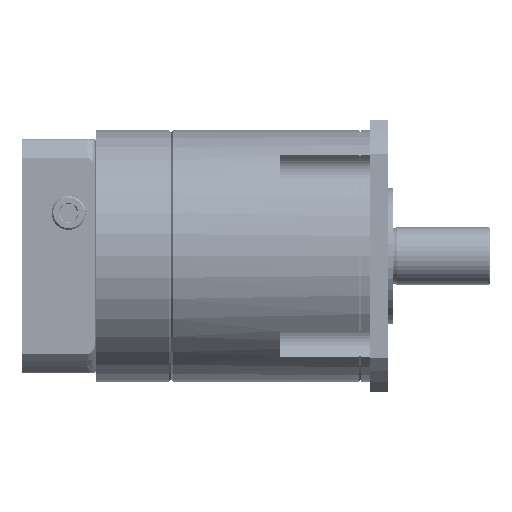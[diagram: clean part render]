
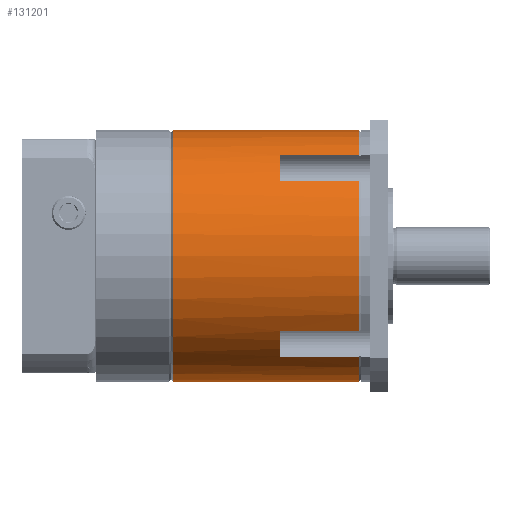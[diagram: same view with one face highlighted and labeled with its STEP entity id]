
A CAD part, front view. The second image highlights one B-rep face of the part: STEP entity #131201.
In plain terms, the highlighted cylindrical face has radius 35 mm (diameter 70 mm), a partial arc.
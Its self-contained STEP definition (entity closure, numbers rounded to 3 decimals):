
#610 = ORIENTED_EDGE ( 'NONE', *, *, #110913, .F. ) ;
#2060 = FACE_OUTER_BOUND ( 'NONE', #150020, .T. ) ;
#3754 = VERTEX_POINT ( 'NONE', #114983 ) ;
#8935 = VERTEX_POINT ( 'NONE', #132248 ) ;
#10751 = CARTESIAN_POINT ( 'NONE',  ( -59.556, -20.959, -28.03 ) ) ;
#10941 = DIRECTION ( 'NONE',  ( 1., 0., 0. ) ) ;
#12674 = AXIS2_PLACEMENT_3D ( 'NONE', #92599, #147727, #23756 ) ;
#13706 = CARTESIAN_POINT ( 'NONE',  ( -0.5, -28.03, 20.959 ) ) ;
#19290 = DIRECTION ( 'NONE',  ( 1., 0., 0. ) ) ;
#22243 = EDGE_CURVE ( 'NONE', #3754, #27598, #90837, .T. ) ;
#22730 = CARTESIAN_POINT ( 'NONE',  ( -0.5, 0., 35. ) ) ;
#23756 = DIRECTION ( 'NONE',  ( 0., 0., -1. ) ) ;
#25842 = DIRECTION ( 'NONE',  ( 1., 0., 0. ) ) ;
#25905 = ORIENTED_EDGE ( 'NONE', *, *, #148186, .T. ) ;
#26109 = DIRECTION ( 'NONE',  ( -1., 0., 0. ) ) ;
#27413 = DIRECTION ( 'NONE',  ( -1., 0., 0. ) ) ;
#27598 = VERTEX_POINT ( 'NONE', #35092 ) ;
#31139 = CARTESIAN_POINT ( 'NONE',  ( -59.556, 0., 0. ) ) ;
#33647 = CARTESIAN_POINT ( 'NONE',  ( -0.5, -20.959, -28.03 ) ) ;
#34166 = EDGE_CURVE ( 'NONE', #8935, #128043, #139757, .T. ) ;
#35092 = CARTESIAN_POINT ( 'NONE',  ( -22.5, -28.03, 20.959 ) ) ;
#35893 = AXIS2_PLACEMENT_3D ( 'NONE', #150054, #26109, #81353 ) ;
#37949 = VERTEX_POINT ( 'NONE', #33647 ) ;
#41877 = DIRECTION ( 'NONE',  ( 0., 0., 1. ) ) ;
#43688 = CARTESIAN_POINT ( 'NONE',  ( -52.5, 0., 35. ) ) ;
#44719 = LINE ( 'NONE', #86387, #90276 ) ;
#46171 = ORIENTED_EDGE ( 'NONE', *, *, #34166, .T. ) ;
#50402 = DIRECTION ( 'NONE',  ( 0., 0., -1. ) ) ;
#51518 = LINE ( 'NONE', #106654, #134224 ) ;
#56344 = CARTESIAN_POINT ( 'NONE',  ( -22.5, -20.959, -28.03 ) ) ;
#57315 = AXIS2_PLACEMENT_3D ( 'NONE', #119119, #174345, #50402 ) ;
#57400 = CYLINDRICAL_SURFACE ( 'NONE', #100399, 35. ) ;
#59730 = EDGE_CURVE ( 'NONE', #3754, #8935, #88154, .T. ) ;
#61732 = AXIS2_PLACEMENT_3D ( 'NONE', #110673, #165910, #41877 ) ;
#63990 = LINE ( 'NONE', #119156, #149926 ) ;
#64611 = EDGE_CURVE ( 'NONE', #90617, #154124, #135327, .T. ) ;
#64647 = AXIS2_PLACEMENT_3D ( 'NONE', #151366, #27413, #82687 ) ;
#66061 = DIRECTION ( 'NONE',  ( -1., 0., 0. ) ) ;
#66281 = EDGE_CURVE ( 'NONE', #108709, #125439, #79827, .T. ) ;
#70878 = VERTEX_POINT ( 'NONE', #56344 ) ;
#79827 = LINE ( 'NONE', #134996, #170513 ) ;
#80876 = CARTESIAN_POINT ( 'NONE',  ( -0.5, 0., -35. ) ) ;
#81084 = DIRECTION ( 'NONE',  ( 0., 0., -1. ) ) ;
#81353 = DIRECTION ( 'NONE',  ( 0., 0., 1. ) ) ;
#82687 = DIRECTION ( 'NONE',  ( 0., 0., 1. ) ) ;
#82874 = AXIS2_PLACEMENT_3D ( 'NONE', #149784, #25842, #81084 ) ;
#85000 = ORIENTED_EDGE ( 'NONE', *, *, #64611, .T. ) ;
#86387 = CARTESIAN_POINT ( 'NONE',  ( -59.556, -28.03, 20.959 ) ) ;
#86393 = DIRECTION ( 'NONE',  ( -1., 0., 0. ) ) ;
#88154 = LINE ( 'NONE', #143305, #166110 ) ;
#90276 = VECTOR ( 'NONE', #141540, 1000. ) ;
#90594 = EDGE_CURVE ( 'NONE', #125439, #169543, #142635, .T. ) ;
#90617 = VERTEX_POINT ( 'NONE', #43688 ) ;
#90837 = CIRCLE ( 'NONE', #12674, 35. ) ;
#92599 = CARTESIAN_POINT ( 'NONE',  ( -22.5, 0., 0. ) ) ;
#93191 = LINE ( 'NONE', #10751, #101084 ) ;
#100399 = AXIS2_PLACEMENT_3D ( 'NONE', #31139, #86393, #141545 ) ;
#101084 = VECTOR ( 'NONE', #66061, 1000. ) ;
#103339 = ORIENTED_EDGE ( 'NONE', *, *, #66281, .T. ) ;
#106654 = CARTESIAN_POINT ( 'NONE',  ( -59.556, 0., -35. ) ) ;
#108709 = VERTEX_POINT ( 'NONE', #149671 ) ;
#110673 = CARTESIAN_POINT ( 'NONE',  ( -0.5, 0., 0. ) ) ;
#110913 = EDGE_CURVE ( 'NONE', #108709, #70878, #160919, .T. ) ;
#112160 = ORIENTED_EDGE ( 'NONE', *, *, #173891, .F. ) ;
#113940 = CIRCLE ( 'NONE', #35893, 35. ) ;
#114983 = CARTESIAN_POINT ( 'NONE',  ( -22.5, -20.959, 28.03 ) ) ;
#119119 = CARTESIAN_POINT ( 'NONE',  ( -52.5, 0., 0. ) ) ;
#119156 = CARTESIAN_POINT ( 'NONE',  ( -59.556, 0., 35. ) ) ;
#123772 = ORIENTED_EDGE ( 'NONE', *, *, #90594, .T. ) ;
#125439 = VERTEX_POINT ( 'NONE', #129082 ) ;
#128043 = VERTEX_POINT ( 'NONE', #22730 ) ;
#129082 = CARTESIAN_POINT ( 'NONE',  ( -0.5, -28.03, -20.959 ) ) ;
#131201 = ADVANCED_FACE ( 'NONE', ( #2060 ), #57400, .T. ) ;
#132248 = CARTESIAN_POINT ( 'NONE',  ( -0.5, -20.959, 28.03 ) ) ;
#134224 = VECTOR ( 'NONE', #161885, 1000. ) ;
#134526 = VERTEX_POINT ( 'NONE', #80876 ) ;
#134996 = CARTESIAN_POINT ( 'NONE',  ( -59.556, -28.03, -20.959 ) ) ;
#135327 = CIRCLE ( 'NONE', #57315, 35. ) ;
#137929 = EDGE_CURVE ( 'NONE', #169543, #27598, #44719, .T. ) ;
#139757 = CIRCLE ( 'NONE', #61732, 35. ) ;
#140443 = EDGE_CURVE ( 'NONE', #134526, #37949, #113940, .T. ) ;
#141540 = DIRECTION ( 'NONE',  ( -1., 0., 0. ) ) ;
#141545 = DIRECTION ( 'NONE',  ( 0., 0., 1. ) ) ;
#142635 = CIRCLE ( 'NONE', #64647, 35. ) ;
#143305 = CARTESIAN_POINT ( 'NONE',  ( -59.556, -20.959, 28.03 ) ) ;
#147727 = DIRECTION ( 'NONE',  ( 1., 0., 0. ) ) ;
#148186 = EDGE_CURVE ( 'NONE', #37949, #70878, #93191, .T. ) ;
#149671 = CARTESIAN_POINT ( 'NONE',  ( -22.5, -28.03, -20.959 ) ) ;
#149784 = CARTESIAN_POINT ( 'NONE',  ( -22.5, 0., 0. ) ) ;
#149926 = VECTOR ( 'NONE', #174382, 1000. ) ;
#150020 = EDGE_LOOP ( 'NONE', ( #112160, #160584, #25905, #610, #103339, #123772, #172175, #150542, #157581, #46171, #171882, #85000 ) ) ;
#150054 = CARTESIAN_POINT ( 'NONE',  ( -0.5, 0., 0. ) ) ;
#150542 = ORIENTED_EDGE ( 'NONE', *, *, #22243, .F. ) ;
#151366 = CARTESIAN_POINT ( 'NONE',  ( -0.5, 0., 0. ) ) ;
#154124 = VERTEX_POINT ( 'NONE', #176367 ) ;
#154417 = EDGE_CURVE ( 'NONE', #128043, #90617, #63990, .T. ) ;
#157581 = ORIENTED_EDGE ( 'NONE', *, *, #59730, .T. ) ;
#160584 = ORIENTED_EDGE ( 'NONE', *, *, #140443, .T. ) ;
#160919 = CIRCLE ( 'NONE', #82874, 35. ) ;
#161885 = DIRECTION ( 'NONE',  ( -1., 0., 0. ) ) ;
#165910 = DIRECTION ( 'NONE',  ( -1., 0., 0. ) ) ;
#166110 = VECTOR ( 'NONE', #19290, 1000. ) ;
#169543 = VERTEX_POINT ( 'NONE', #13706 ) ;
#170513 = VECTOR ( 'NONE', #10941, 1000. ) ;
#171882 = ORIENTED_EDGE ( 'NONE', *, *, #154417, .T. ) ;
#172175 = ORIENTED_EDGE ( 'NONE', *, *, #137929, .T. ) ;
#173891 = EDGE_CURVE ( 'NONE', #134526, #154124, #51518, .T. ) ;
#174345 = DIRECTION ( 'NONE',  ( 1., 0., 0. ) ) ;
#174382 = DIRECTION ( 'NONE',  ( -1., 0., 0. ) ) ;
#176367 = CARTESIAN_POINT ( 'NONE',  ( -52.5, 0., -35. ) ) ;
